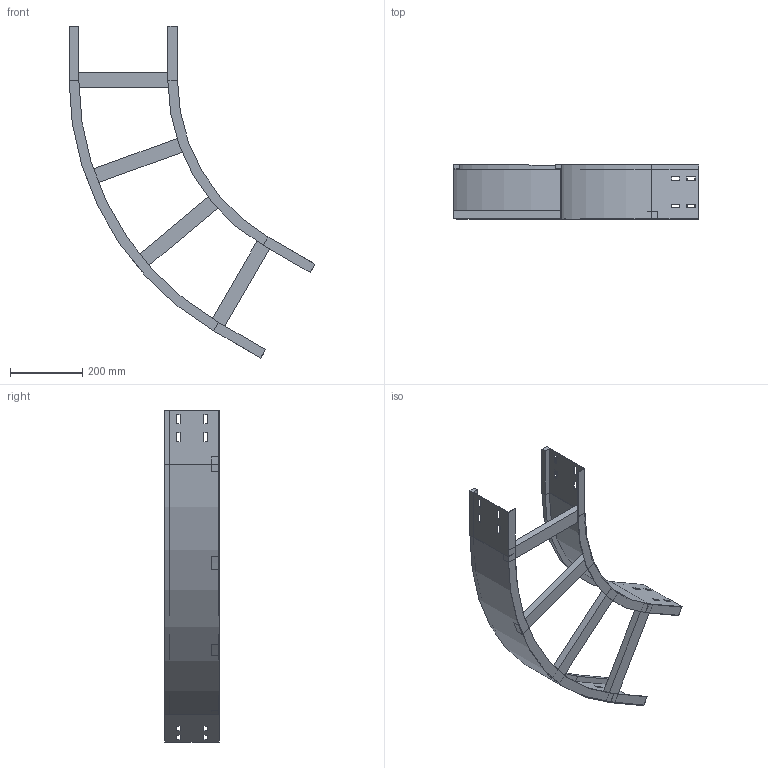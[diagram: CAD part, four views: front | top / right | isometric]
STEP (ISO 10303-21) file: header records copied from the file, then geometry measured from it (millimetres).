
FILE_DESCRIPTION (( 'STEP AP214' ), '1' );
FILE_NAME ('13J5F300.step', '2025-02-21T16:24:38', ( '' ), ( '' ), 'SwSTEP 2.0', 'SolidWorks 2023', '' );
FILE_SCHEMA (( 'AUTOMOTIVE_DESIGN' ));
Length unit declared in the file: millimetre
Products named in the file (4): LONGH.INTERNO 60°_H150_R500; 13J5F300; TRAVERSINO_300; LONGH.ESTERNO 60°_H150_R500+300
Assembly tree (6 placements, depth 2):
  13J5F300
    LONGH.INTERNO 60°_H150_R500
    LONGH.ESTERNO 60°_H150_R500+300
    TRAVERSINO_300  x4
Bounding box: 679.9 x 150 x 917.82 mm (x, y, z)
Volume: 2014895.4 mm3; surface area: 903971.7 mm2
Topology: 6 solids, 6 shells, 140 faces, 352 edges, 224 vertices
Faces by surface type: plane 132, cylinder 8
Entity records: 3829 total; most frequent: CARTESIAN_POINT 647, ORIENTED_EDGE 632, DIRECTION 594, EDGE_CURVE 316, LINE 300, VECTOR 300, VERTEX_POINT 200, EDGE_LOOP 154
